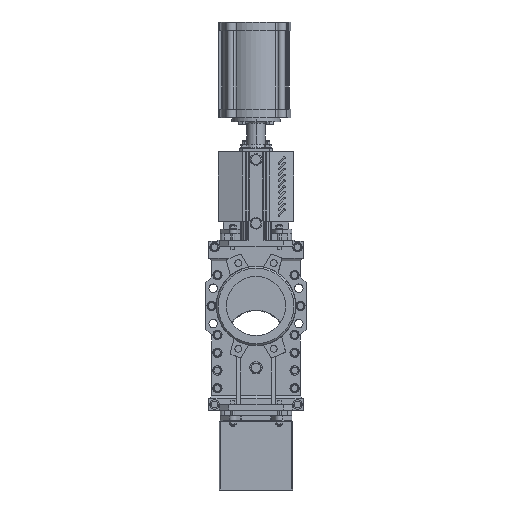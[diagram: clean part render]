
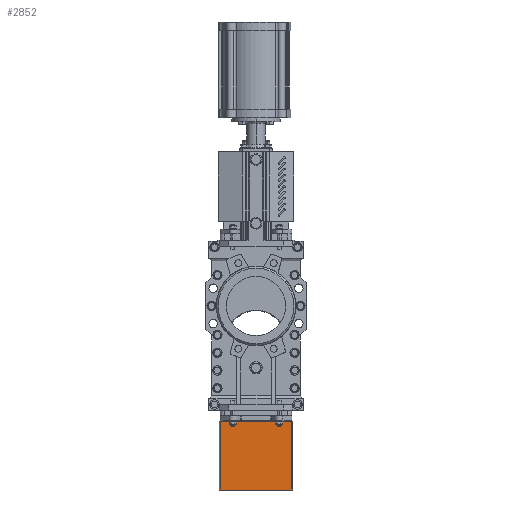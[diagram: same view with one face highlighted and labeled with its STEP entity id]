
A CAD part, left-side view. The second image highlights one B-rep face of the part: STEP entity #2852.
In plain terms, the highlighted planar face has unit normal (-1, 0, 0).
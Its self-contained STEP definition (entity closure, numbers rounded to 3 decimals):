
#2852=ADVANCED_FACE('',(#8641),#8642,.T.);
#8641=FACE_OUTER_BOUND('',#15044,.T.);
#8642=PLANE('',#15045);
#15044=EDGE_LOOP('',(#35777,#35778,#35779,#35780));
#15045=AXIS2_PLACEMENT_3D('',#35781,#35782,#35783);
#35777=ORIENTED_EDGE('',*,*,#45830,.T.);
#35778=ORIENTED_EDGE('',*,*,#45831,.F.);
#35779=ORIENTED_EDGE('',*,*,#45832,.T.);
#35780=ORIENTED_EDGE('',*,*,#45826,.T.);
#35781=CARTESIAN_POINT('',(-8.5,-92.,-387.568));
#35782=DIRECTION('',(-1.,0.,0.));
#35783=DIRECTION('',(0.,0.,1.));
#45826=EDGE_CURVE('',#56895,#56931,#56933,.T.);
#45830=EDGE_CURVE('',#56931,#56937,#56938,.T.);
#45831=EDGE_CURVE('',#56939,#56937,#56940,.T.);
#45832=EDGE_CURVE('',#56939,#56895,#56941,.T.);
#56895=VERTEX_POINT('',#76900);
#56931=VERTEX_POINT('',#76954);
#56933=LINE('',#76956,#76957);
#56937=VERTEX_POINT('',#76962);
#56938=LINE('',#76963,#76964);
#56939=VERTEX_POINT('',#76965);
#56940=LINE('',#76966,#76967);
#56941=LINE('',#76968,#76969);
#76900=CARTESIAN_POINT('',(-8.5,-92.,-298.818));
#76954=CARTESIAN_POINT('',(-8.5,93.,-298.818));
#76956=CARTESIAN_POINT('',(-8.5,-92.,-298.818));
#76957=VECTOR('',#89582,10.);
#76962=CARTESIAN_POINT('',(-8.5,93.,-476.318));
#76963=CARTESIAN_POINT('',(-8.5,93.,-298.818));
#76964=VECTOR('',#89590,10.);
#76965=CARTESIAN_POINT('',(-8.5,-92.,-476.318));
#76966=CARTESIAN_POINT('',(-8.5,-92.,-476.318));
#76967=VECTOR('',#89591,10.);
#76968=CARTESIAN_POINT('',(-8.5,-92.,-476.318));
#76969=VECTOR('',#89592,10.);
#89582=DIRECTION('',(0.,1.,0.));
#89590=DIRECTION('',(0.,0.,-1.));
#89591=DIRECTION('',(0.,1.,0.));
#89592=DIRECTION('',(0.,0.,1.));
